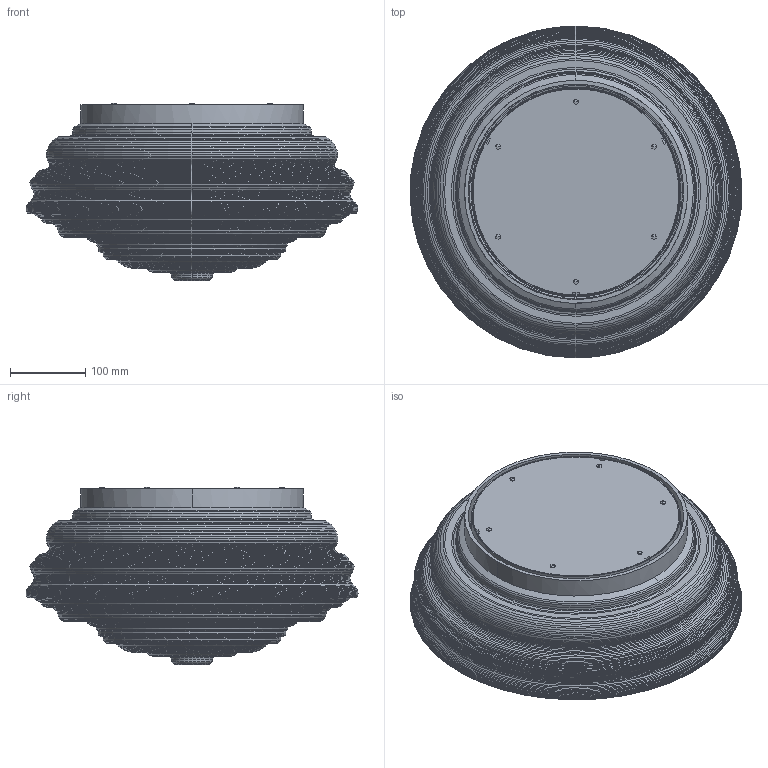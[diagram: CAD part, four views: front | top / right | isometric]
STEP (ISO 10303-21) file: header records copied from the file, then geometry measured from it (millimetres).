
FILE_DESCRIPTION(/* description */ (''),/* implementation_level */ '2;1');
FILE_NAME(/* name */ 'Vieden Wall',/* time_stamp */ '2019-01-18T13:58:10+01:00',/* author */ (''),/* organization */ (''),/* preprocessor_version */ 'ST-DEVELOPER v15',/* originating_system */ '',/* authorisation */ '');
FILE_SCHEMA (('AUTOMOTIVE_DESIGN'));
Length unit declared in the file: millimetre
Products named in the file (1): Document
Bounding box: 442.26 x 442.47 x 236.32 mm (x, y, z)
Volume: 2832117.7 mm3; surface area: 1140296.4 mm2
Topology: 10 solids, 11 shells, 1039 faces, 2139 edges, 1103 vertices
Faces by surface type: bspline 1039
Entity records: 62890 total; most frequent: CARTESIAN_POINT 36337, B_SPLINE_CURVE_WITH_KNOTS 5210, ORIENTED_EDGE 4234, PCURVE 4234, DEFINITIONAL_REPRESENTATION 4234, SURFACE_CURVE 2118, EDGE_CURVE 2118, VERTEX_POINT 1101
